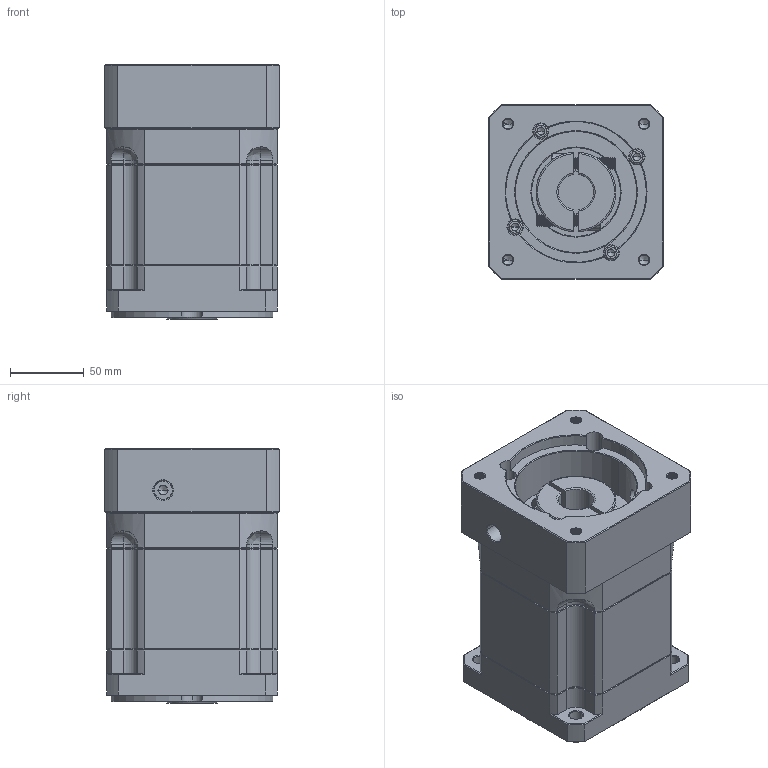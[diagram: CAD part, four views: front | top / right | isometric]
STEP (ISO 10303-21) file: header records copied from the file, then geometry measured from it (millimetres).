
FILE_DESCRIPTION (( 'STEP AP214' ), '1' );
FILE_NAME ('ZB115A-K25-L2-24-95-130-M8.step', '2023-03-02T09:05:18', ( '' ), ( 'Microsoft' ), 'SwSTEP 2.0', 'SolidWorks 2016', '' );
FILE_SCHEMA (( 'AUTOMOTIVE_DESIGN' ));
Length unit declared in the file: millimetre
Products named in the file (1): ZB115A-K25-L2-24-95-130-M8
Bounding box: 118 x 118 x 172 mm (x, y, z)
Volume: 1847209.1 mm3; surface area: 179162.7 mm2
Topology: 6 solids, 6 shells, 2068 faces, 5354 edges, 3377 vertices
Faces by surface type: plane 957, cylinder 411, cone 364, bspline 316, torus 20
Entity records: 108254 total; most frequent: CARTESIAN_POINT 37680, ORIENTED_EDGE 10644, DIRECTION 8788, EDGE_CURVE 5322, VERTEX_POINT 3377, VECTOR 3328, LINE 3328, AXIS2_PLACEMENT_3D 2730
